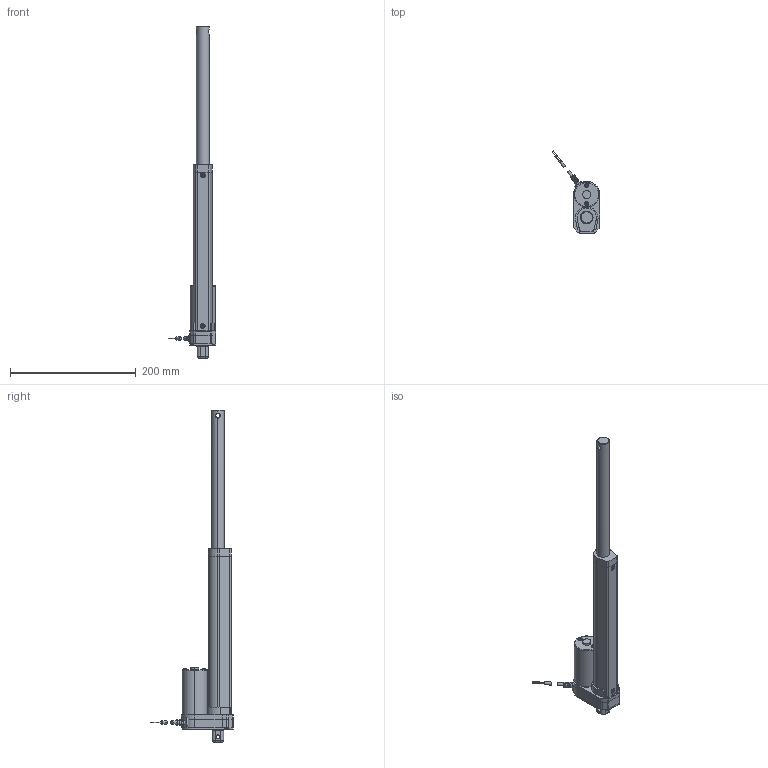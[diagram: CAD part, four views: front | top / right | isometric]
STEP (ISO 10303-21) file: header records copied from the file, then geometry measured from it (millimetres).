
FILE_DESCRIPTION (( 'STEP AP203' ), '1' );
FILE_NAME ('la3200e.step', '2020-08-06T14:25:28', ( '' ), ( '' ), 'SwSTEP 2.0', 'SolidWorks 2017', '' );
FILE_SCHEMA (( 'CONFIG_CONTROL_DESIGN' ));
Length unit declared in the file: millimetre
Products named in the file (1): la3200e
Bounding box: 76.07 x 130.5 x 528 mm (x, y, z)
Volume: 532780.3 mm3; surface area: 101282.2 mm2
Topology: 17 solids, 17 shells, 427 faces, 1050 edges, 686 vertices
Faces by surface type: plane 232, cylinder 159, torus 22, cone 10, bspline 4
Entity records: 15600 total; most frequent: CARTESIAN_POINT 5107, DIRECTION 2266, ORIENTED_EDGE 2100, EDGE_CURVE 1050, AXIS2_PLACEMENT_3D 812, VERTEX_POINT 686, VECTOR 642, LINE 642
